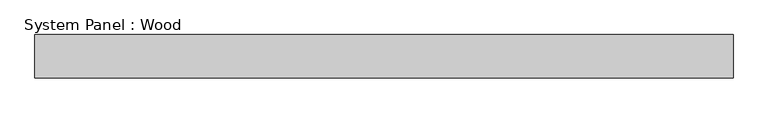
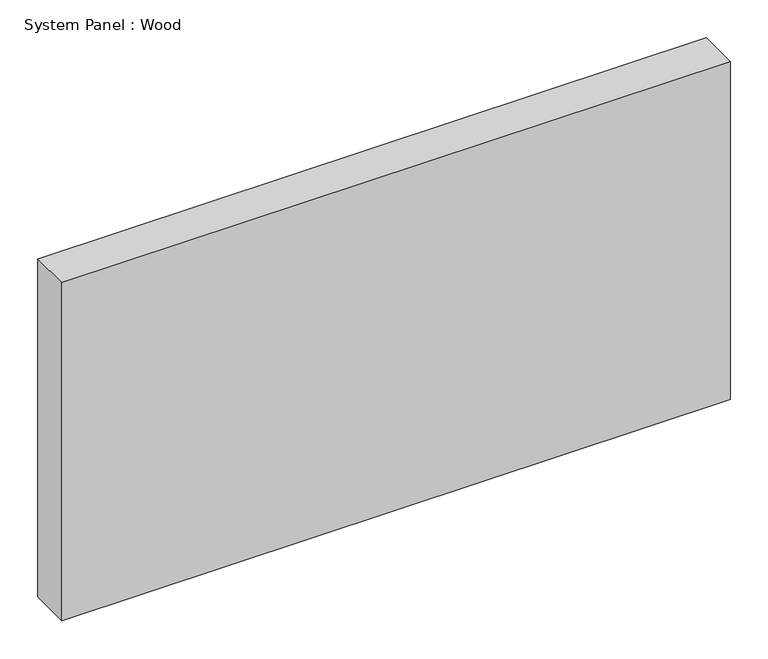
"""IFC4 building model written with IfcOpenShell, lengths in millimetres: plate geometry, System Panel : Wood."""

from ifc_helpers import new_model, si_unit, origin, origin_with_axes, place, context, project, spatial, polyline, outline, extrude, source, transform, mapped, element, save


def system_panel_wood_c3fb54ce(model_context):
    return source(origin(), model_context, "Body", "SweptSolid", [
        extrude(outline(polyline([(510.2678571, -19.05), (-510.2678571, -19.05), (-510.2678571, 44.45), (510.2678571, 44.45), (510.2678571, -19.05)])), origin_with_axes(), (0.0, 0.0, 1.0), 546.1),
    ])


if __name__ == "__main__":
    model = new_model("IFC4")
    model_context = context("Model", 3, world=origin())
    ifc_project = project(units=[si_unit("LENGTHUNIT", "METRE", prefix="MILLI")], contexts=[model_context])
    site = spatial("IfcSite", under=ifc_project)
    building = spatial("IfcBuilding", under=site)
    placement = place(None, origin())
    system_panel_wood_shape = system_panel_wood_c3fb54ce(model_context)
    element("IfcPlate", 1, ObjectType="System Panel : Wood", at=placement, inside=building, context=model_context, shape_type="MappedRepresentation", body=[
        mapped(system_panel_wood_shape, transform((0.0, 0.0, 0.0), x_axis=(1.0, 0.0, 0.0), y_axis=(0.0, 1.0, 0.0), z_axis=(0.0, 0.0, 1.0))),
    ])
    save(model, "model.ifc")
